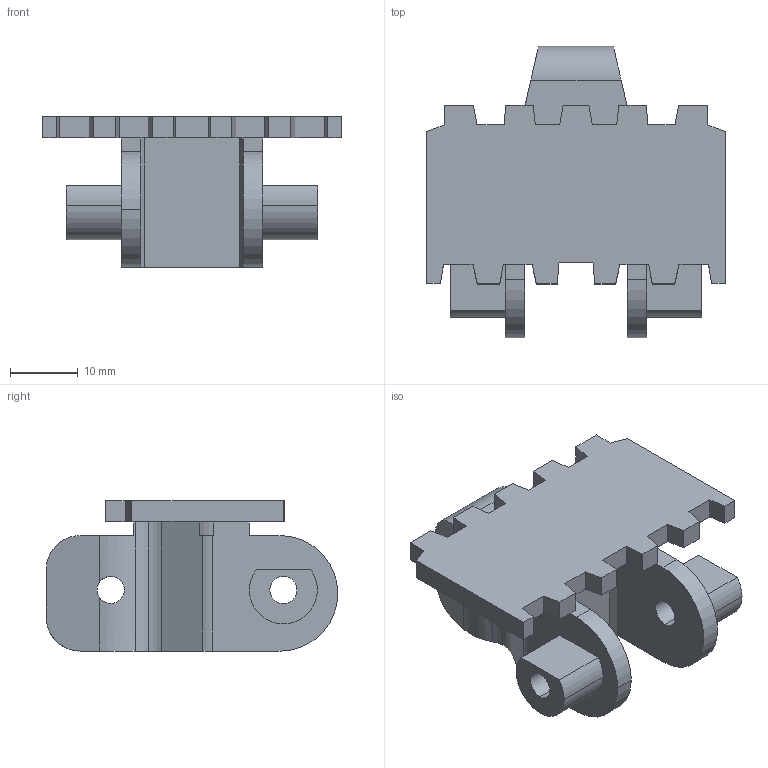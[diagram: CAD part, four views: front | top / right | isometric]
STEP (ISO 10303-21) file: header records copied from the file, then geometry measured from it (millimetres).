
FILE_DESCRIPTION (( 'STEP AP203' ), '1' );
FILE_NAME ('FKPC-5.STEP', '2010-02-23T10:15:43', ( '.' ), ( '' ), 'SwSTEP 2.0', 'SolidWorks 2009', '' );
FILE_SCHEMA (( 'CONFIG_CONTROL_DESIGN' ));
Length unit declared in the file: millimetre
Products named in the file (1): FKPC-5
Bounding box: 44 x 42.9 x 22.1 mm (x, y, z)
Volume: 11611.5 mm3; surface area: 6589.8 mm2
Topology: 1 solids, 1 shells, 99 faces, 288 edges, 192 vertices
Faces by surface type: plane 71, cylinder 28
Entity records: 3417 total; most frequent: CARTESIAN_POINT 694, ORIENTED_EDGE 576, DIRECTION 522, EDGE_CURVE 288, VECTOR 226, LINE 226, VERTEX_POINT 192, AXIS2_PLACEMENT_3D 148
